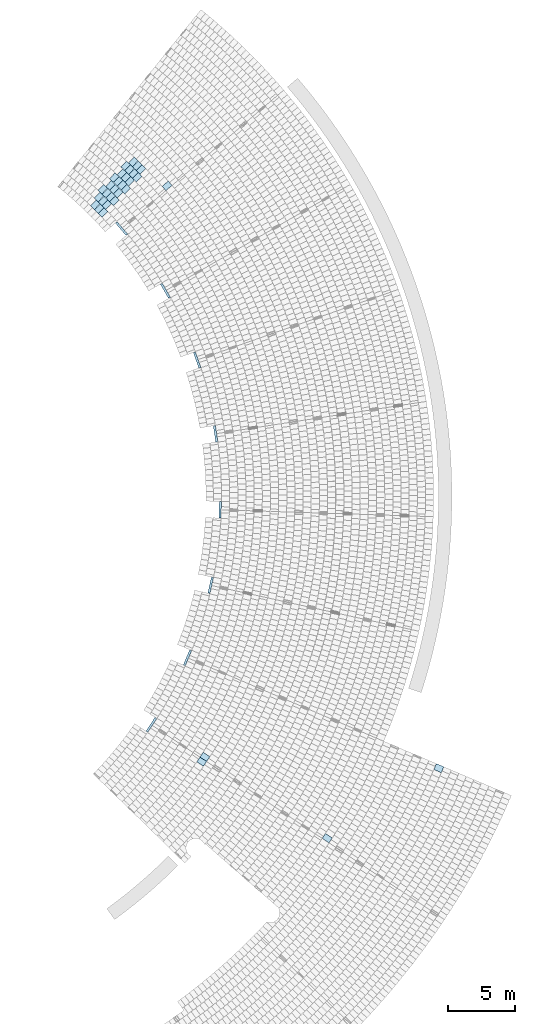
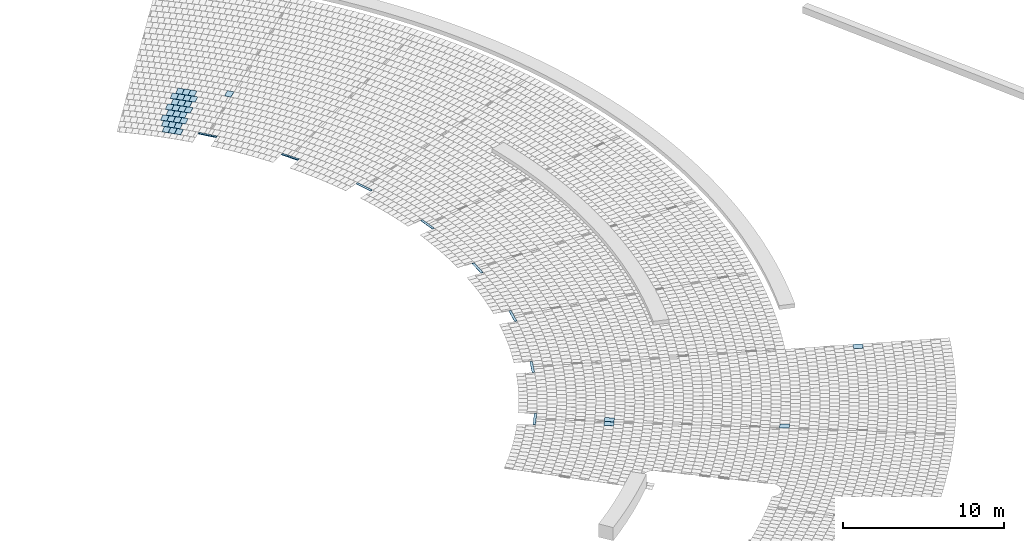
# One storey, part 12 of 438: 40 slabs.
"""IFC2X3 building model written with IfcOpenShell, lengths in millimetres."""

from ifc_helpers import new_model, entity, si_unit, converted_unit, derived_unit, direction, frame, frame_2d, origin, place, context, subcontext, project, spatial, polyline, rectangle, outline, extrude, material, layer, layer_set, layer_usage, type_object, element, save


model = new_model("IFC2X3")

# Units and contexts
model_context = context("Model", 3, precision=0.01, world=origin(), true_north=direction((6.123031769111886e-17, 1.0)))
body_context = subcontext(model_context, "Body", "Model", "MODEL_VIEW")
ifc_project = project(units=[si_unit("LENGTHUNIT", "METRE", prefix="MILLI"), si_unit("AREAUNIT", "SQUARE_METRE"), si_unit("VOLUMEUNIT", "CUBIC_METRE"), converted_unit("PLANEANGLEUNIT", "DEGREE", entity("IfcRatioMeasure", 0.017453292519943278), si_unit("PLANEANGLEUNIT", "RADIAN"), dimensions=[0, 0, 0, 0, 0, 0, 0]), si_unit("MASSUNIT", "GRAM", prefix="KILO"), derived_unit("MASSDENSITYUNIT", [(si_unit("MASSUNIT", "GRAM", prefix="KILO"), 1), (si_unit("LENGTHUNIT", "METRE"), -3)]), derived_unit("MOMENTOFINERTIAUNIT", [(si_unit("LENGTHUNIT", "METRE"), 4)]), si_unit("TIMEUNIT", "SECOND"), si_unit("FREQUENCYUNIT", "HERTZ"), si_unit("THERMODYNAMICTEMPERATUREUNIT", "DEGREE_CELSIUS"), derived_unit("THERMALTRANSMITTANCEUNIT", [(si_unit("MASSUNIT", "GRAM", prefix="KILO"), 1), (si_unit("THERMODYNAMICTEMPERATUREUNIT", "KELVIN"), -1), (si_unit("TIMEUNIT", "SECOND"), -3)]), derived_unit("THERMALCONDUCTANCEUNIT", [(si_unit("MASSUNIT", "GRAM", prefix="KILO"), 1), (si_unit("LENGTHUNIT", "METRE"), 1), (si_unit("THERMODYNAMICTEMPERATUREUNIT", "KELVIN"), -1), (si_unit("TIMEUNIT", "SECOND"), -3)]), derived_unit("VOLUMETRICFLOWRATEUNIT", [(si_unit("LENGTHUNIT", "METRE"), 3), (si_unit("TIMEUNIT", "SECOND"), -1)]), derived_unit("MASSFLOWRATEUNIT", [(si_unit("MASSUNIT", "GRAM", prefix="KILO"), 1), (si_unit("TIMEUNIT", "SECOND"), -1)]), derived_unit("ROTATIONALFREQUENCYUNIT", [(si_unit("TIMEUNIT", "SECOND"), -1)]), si_unit("ELECTRICCURRENTUNIT", "AMPERE"), si_unit("ELECTRICVOLTAGEUNIT", "VOLT"), si_unit("POWERUNIT", "WATT"), converted_unit("FORCEUNIT", "KIP", entity("IfcRatioMeasure", 2.088543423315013e-05), si_unit("FORCEUNIT", "NEWTON"), dimensions=[1, 1, -2, 0, 0, 0, 0]), si_unit("ILLUMINANCEUNIT", "LUX"), si_unit("LUMINOUSFLUXUNIT", "LUMEN"), si_unit("LUMINOUSINTENSITYUNIT", "CANDELA"), derived_unit("USERDEFINED", [(si_unit("MASSUNIT", "GRAM", prefix="KILO"), -1), (si_unit("LENGTHUNIT", "METRE"), -2), (si_unit("TIMEUNIT", "SECOND"), 3), (si_unit("LUMINOUSFLUXUNIT", "LUMEN"), 1)]), derived_unit("USERDEFINED", [(si_unit("MASSUNIT", "GRAM", prefix="KILO"), 1), (si_unit("LENGTHUNIT", "METRE"), 3), (si_unit("TIMEUNIT", "SECOND"), -3), (si_unit("ELECTRICCURRENTUNIT", "AMPERE"), -2)]), derived_unit("USERDEFINED", [(si_unit("LENGTHUNIT", "METRE"), 2), (si_unit("TIMEUNIT", "SECOND"), -2)]), derived_unit("SOUNDPOWERUNIT", [(si_unit("MASSUNIT", "GRAM", prefix="KILO"), 1), (si_unit("LENGTHUNIT", "METRE"), 2), (si_unit("TIMEUNIT", "SECOND"), -3)]), derived_unit("SOUNDPRESSUREUNIT", [(si_unit("MASSUNIT", "GRAM", prefix="KILO"), 1), (si_unit("LENGTHUNIT", "METRE"), -1), (si_unit("TIMEUNIT", "SECOND"), -2)]), derived_unit("LINEARVELOCITYUNIT", [(si_unit("LENGTHUNIT", "METRE"), 1), (si_unit("TIMEUNIT", "SECOND"), -1)]), si_unit("PRESSUREUNIT", "PASCAL"), derived_unit("USERDEFINED", [(si_unit("LENGTHUNIT", "METRE"), -2), (si_unit("MASSUNIT", "GRAM", prefix="KILO"), 1), (si_unit("TIMEUNIT", "SECOND"), -2)]), derived_unit("LINEARFORCEUNIT", [(si_unit("MASSUNIT", "GRAM", prefix="KILO"), 1), (si_unit("LENGTHUNIT", "METRE"), 1), (si_unit("TIMEUNIT", "SECOND"), -2), (si_unit("LENGTHUNIT", "METRE"), -1)]), derived_unit("PLANARFORCEUNIT", [(si_unit("MASSUNIT", "GRAM", prefix="KILO"), 1), (si_unit("LENGTHUNIT", "METRE"), 1), (si_unit("TIMEUNIT", "SECOND"), -2), (si_unit("LENGTHUNIT", "METRE"), -2)]), derived_unit("SPECIFICHEATCAPACITYUNIT", [(si_unit("LENGTHUNIT", "METRE"), 2), (si_unit("TIMEUNIT", "SECOND"), -2), (si_unit("THERMODYNAMICTEMPERATUREUNIT", "KELVIN"), -1)]), derived_unit("VAPORPERMEABILITYUNIT", [(si_unit("TIMEUNIT", "SECOND"), 1), (si_unit("LENGTHUNIT", "METRE"), -1)]), derived_unit("DYNAMICVISCOSITYUNIT", [(si_unit("MASSUNIT", "GRAM", prefix="KILO"), 1), (si_unit("LENGTHUNIT", "METRE"), -1), (si_unit("TIMEUNIT", "SECOND"), -1)]), derived_unit("THERMALEXPANSIONCOEFFICIENTUNIT", [(si_unit("THERMODYNAMICTEMPERATUREUNIT", "KELVIN"), -1)])], contexts=[model_context])

# Site, building, storey
site_placement = place(None, frame((0.0, 0.0, 0.0), z_axis=(0.0, 0.0, 1.0), x_axis=(0.8191520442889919, 0.5735764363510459, 0.0)))
site = spatial("IfcSite", under=ifc_project, at=site_placement, Name="Default", CompositionType="ELEMENT")
building_placement = place(site_placement, origin())
building = spatial("IfcBuilding", under=site, at=building_placement, CompositionType="ELEMENT")
storey_placement = place(building_placement, origin())
storey = spatial("IfcBuildingStorey", under=building, at=storey_placement, Name="PLAN", CompositionType="ELEMENT", Elevation=0.0)

# Slabs
ifc_material = material(Name="Paint-01")
ifc_layer = layer(ifc_material, 20.00000000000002)
ifc_layer_set = layer_set([ifc_layer], Name="Floor:Slab-179:1000")
ifc_layer_usage = layer_usage(ifc_layer_set, "AXIS3", "POSITIVE", 0.0)
slab_type = type_object("IfcSlabType", Name="Floor:Slab-179:1000", PredefinedType="FLOOR", material=ifc_layer_set)
slab_1_placement = place(storey_placement, origin())
element("IfcSlab", 1, at=slab_1_placement, inside=storey, type_object=slab_type, material=ifc_layer_usage, Name="Floor:Slab-179:1000", ObjectType="Floor:Slab-179:1000", PredefinedType="FLOOR", context=body_context, shape_type="SweptSolid", body=[
    extrude(outline(polyline([(-299.9999975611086, -212.6252060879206), (300.0, -212.62520608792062), (299.9999975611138, 212.62520608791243), (-300.0, 212.62520608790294), (-299.9999975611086, -212.6252060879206)])), frame((-5300.360178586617, -64360.26946754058, 520.0), z_axis=(0.0, 0.0, -1.0), x_axis=(0.9947582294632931, 0.10225490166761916, 0.0)), (0.0, 0.0, 1.0), 20.000000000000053),
])
slab_2_placement = place(storey_placement, origin())
element("IfcSlab", 2, at=slab_2_placement, inside=storey, type_object=slab_type, material=ifc_layer_usage, Name="Floor:Slab-179:1000", ObjectType="Floor:Slab-179:1000", PredefinedType="FLOOR", context=body_context, shape_type="SweptSolid", body=[
    extrude(rectangle(XDim=160.00000000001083, YDim=1199.9999999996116, at=frame_2d((3.90087961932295e-12, 4.718003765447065e-12), x_axis=(1.0, 0.0))), frame((-9882.862790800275, -65017.006092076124, 520.0), z_axis=(0.0, 0.0, -1.0), x_axis=(0.9953973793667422, 0.09583348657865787, 0.0)), (0.0, 0.0, 1.0), 20.000000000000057),
])
slab_3_placement = place(storey_placement, origin())
element("IfcSlab", 3, at=slab_3_placement, inside=storey, type_object=slab_type, material=ifc_layer_usage, Name="Floor:Slab-179:1000", ObjectType="Floor:Slab-179:1000", PredefinedType="FLOOR", context=body_context, shape_type="SweptSolid", body=[
    extrude(rectangle(XDim=160.00000000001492, YDim=1199.999999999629, at=frame_2d((4.426681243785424e-12, 7.673861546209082e-12), x_axis=(1.0, 0.0))), frame((-10879.707108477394, -76210.82822734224, 520.0), z_axis=(0.0, 0.0, -1.0), x_axis=(0.9627994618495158, -0.27021694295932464, 0.0)), (0.0, 0.0, 1.0), 19.999999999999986),
])
slab_4_placement = place(storey_placement, origin())
element("IfcSlab", 4, at=slab_4_placement, inside=storey, type_object=slab_type, material=ifc_layer_usage, Name="Floor:Slab-179:1000", ObjectType="Floor:Slab-179:1000", PredefinedType="FLOOR", context=body_context, shape_type="SweptSolid", body=[
    extrude(rectangle(XDim=160.00000000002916, YDim=1199.9999999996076, at=frame_2d((-4.959588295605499e-12, 2.177102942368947e-11), x_axis=(1.0, 0.0))), frame((-12899.385331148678, -81480.15915321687, 520.0), z_axis=(0.0, 0.0, -1.0), x_axis=(0.8967537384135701, -0.4425299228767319, 0.0)), (0.0, 0.0, 1.0), 19.99999999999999),
])
slab_5_placement = place(storey_placement, origin())
element("IfcSlab", 5, at=slab_5_placement, inside=storey, type_object=slab_type, material=ifc_layer_usage, Name="Floor:Slab-179:1000", ObjectType="Floor:Slab-179:1000", PredefinedType="FLOOR", context=body_context, shape_type="SweptSolid", body=[
    extrude(rectangle(XDim=160.00000000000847, YDim=1199.9999999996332, at=frame_2d((-6.0538241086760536e-12, 4.547473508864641e-12), x_axis=(1.0, 0.0))), frame((-15852.911710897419, -86288.6548071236, 520.0), z_axis=(0.0, 0.0, -1.0), x_axis=(0.8001701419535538, -0.5997730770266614, 0.0)), (0.0, 0.0, 1.0), 20.000000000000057),
])
slab_6_placement = place(storey_placement, origin())
element("IfcSlab", 6, at=slab_6_placement, inside=storey, type_object=slab_type, material=ifc_layer_usage, Name="Floor:Slab-179:1000", ObjectType="Floor:Slab-179:1000", PredefinedType="FLOOR", context=body_context, shape_type="SweptSolid", body=[
    extrude(rectangle(XDim=159.99999999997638, YDim=1199.9999999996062, at=frame_2d((7.631228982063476e-12, 1.7337242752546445e-11), x_axis=(1.0, 0.0))), frame((-19639.707449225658, -90472.56763672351, 520.0), z_axis=(0.0, 0.0, -1.0), x_axis=(0.6763377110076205, -0.7365916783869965, 0.0)), (0.0, 0.0, 1.0), 20.000000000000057),
])
slab_7_placement = place(storey_placement, origin())
element("IfcSlab", 7, at=slab_7_placement, inside=storey, type_object=slab_type, material=ifc_layer_usage, Name="Floor:Slab-179:1000", ObjectType="Floor:Slab-179:1000", PredefinedType="FLOOR", context=body_context, shape_type="SweptSolid", body=[
    extrude(rectangle(XDim=160.00000000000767, YDim=1199.999999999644, at=frame_2d((-6.210143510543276e-12, -6.366462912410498e-12), x_axis=(1.0, 0.0))), frame((-24130.81775902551, -93889.41950865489, 520.0), z_axis=(0.0, 0.0, -1.0), x_axis=(0.5294734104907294, -0.848326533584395, 0.0)), (0.0, 0.0, 1.0), 19.99999999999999),
])
slab_8_placement = place(storey_placement, origin())
element("IfcSlab", 8, at=slab_8_placement, inside=storey, type_object=slab_type, material=ifc_layer_usage, Name="Floor:Slab-179:1000", ObjectType="Floor:Slab-179:1000", PredefinedType="FLOOR", context=body_context, shape_type="SweptSolid", body=[
    extrude(rectangle(XDim=160.00000000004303, YDim=1199.9999999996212, at=frame_2d((-7.275957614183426e-12, -5.172751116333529e-12), x_axis=(1.0, 0.0))), frame((-29173.303265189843, -96422.85363048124, 520.0), z_axis=(0.0, 0.0, -1.0), x_axis=(0.3645785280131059, -0.9311726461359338, 0.0)), (0.0, 0.0, 1.0), 20.000000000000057),
])
slab_9_placement = place(storey_placement, origin())
element("IfcSlab", 9, at=slab_9_placement, inside=storey, type_object=slab_type, material=ifc_layer_usage, Name="Floor:Slab-179:1000", ObjectType="Floor:Slab-179:1000", PredefinedType="FLOOR", context=body_context, shape_type="SweptSolid", body=[
    extrude(rectangle(XDim=160.00000000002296, YDim=1199.9999999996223, at=frame_2d((-1.1084466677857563e-11, 9.72022462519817e-12), x_axis=(1.0, 0.0))), frame((-9862.654762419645, -70660.10277431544, 520.0), z_axis=(0.0, 0.0, -1.0), x_axis=(0.9960582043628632, -0.08870204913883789, 0.0)), (0.0, 0.0, 1.0), 19.99999999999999),
])
slab_10_placement = place(storey_placement, origin())
element("IfcSlab", 10, at=slab_10_placement, inside=storey, type_object=slab_type, material=ifc_layer_usage, Name="Floor:Slab-179:1000", ObjectType="Floor:Slab-179:1000", PredefinedType="FLOOR", context=body_context, shape_type="SweptSolid", body=[
    extrude(outline(polyline([(-300.0, -212.6251656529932), (299.99999756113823, -212.62516565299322), (300.0, 212.62516565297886), (-299.9999975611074, 212.62516565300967), (-300.0, -212.6251656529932)])), frame((-27687.154416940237, -100807.1431704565, 520.0), z_axis=(0.0, 0.0, -1.0), x_axis=(0.35856197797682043, -0.9335059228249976, 0.0)), (0.0, 0.0, 1.0), 20.000000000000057),
])
slab_11_placement = place(storey_placement, origin())
element("IfcSlab", 11, at=slab_11_placement, inside=storey, type_object=slab_type, material=ifc_layer_usage, Name="Floor:Slab-179:1000", ObjectType="Floor:Slab-179:1000", PredefinedType="FLOOR", context=body_context, shape_type="SweptSolid", body=[
    extrude(outline(polyline([(-299.99999756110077, -212.62520608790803), (300.0, -212.62520608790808), (299.9999975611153, 212.62520608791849), (-300.0, 212.62520608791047), (-299.99999756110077, -212.62520608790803)])), frame((-27287.575772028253, -100650.69764445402, 520.0), z_axis=(0.0, 0.0, -1.0), x_axis=(0.3705798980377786, -0.9288005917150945, 0.0)), (0.0, 0.0, 1.0), 20.000000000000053),
])
slab_12_placement = place(storey_placement, origin())
element("IfcSlab", 12, at=slab_12_placement, inside=storey, type_object=slab_type, material=ifc_layer_usage, Name="Floor:Slab-179:1000", ObjectType="Floor:Slab-179:1000", PredefinedType="FLOOR", context=body_context, shape_type="SweptSolid", body=[
    extrude(outline(polyline([(-299.9999975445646, -215.7377244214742), (300.0, -215.73772442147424), (299.99999754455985, 215.7377244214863), (-300.0, 215.73772442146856), (-299.9999975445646, -215.7377244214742)])), frame((-23314.75457950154, -110790.31783650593, 520.0), z_axis=(0.0, 0.0, -1.0), x_axis=(0.3692805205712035, -0.9293179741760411, 0.0)), (0.0, 0.0, 1.0), 20.000000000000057),
])
slab_13_placement = place(storey_placement, origin())
element("IfcSlab", 13, at=slab_13_placement, inside=storey, type_object=slab_type, material=ifc_layer_usage, Name="Floor:Slab-179:1000", ObjectType="Floor:Slab-179:1000", PredefinedType="FLOOR", context=body_context, shape_type="SweptSolid", body=[
    extrude(outline(polyline([(-299.9999976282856, -200.00000294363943), (300.0, -200.00000294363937), (299.9999976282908, 200.00000294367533), (-300.0, 200.00000294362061), (-299.9999976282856, -200.00000294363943)])), frame((-6754.326394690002, -62575.10710725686, 520.0), z_axis=(0.0, 0.0, -1.0), x_axis=(0.987433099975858, 0.15803756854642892, 0.0)), (0.0, 0.0, 1.0), 19.999999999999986),
])
slab_14_placement = place(storey_placement, origin())
element("IfcSlab", 14, at=slab_14_placement, inside=storey, type_object=slab_type, material=ifc_layer_usage, Name="Floor:Slab-179:1000", ObjectType="Floor:Slab-179:1000", PredefinedType="FLOOR", context=body_context, shape_type="SweptSolid", body=[
    extrude(outline(polyline([(-299.9999976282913, -200.00000294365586), (300.0, -200.00000294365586), (299.99999762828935, 200.00000294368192), (-300.0, 200.00000294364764), (-299.9999976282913, -200.00000294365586)])), frame((-10321.70629349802, -63256.24852510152, 520.0), z_axis=(0.0, 0.0, -1.0), x_axis=(0.9879930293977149, 0.15449845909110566, 0.0)), (0.0, 0.0, 1.0), 19.99999999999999),
])
slab_15_placement = place(storey_placement, origin())
element("IfcSlab", 15, at=slab_15_placement, inside=storey, type_object=slab_type, material=ifc_layer_usage, Name="Floor:Slab-179:1000", ObjectType="Floor:Slab-179:1000", PredefinedType="FLOOR", context=body_context, shape_type="SweptSolid", body=[
    extrude(outline(polyline([(-299.99999762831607, -200.00000294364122), (300.0, -200.00000294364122), (299.99999762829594, 200.0000029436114), (-300.0, 200.00000294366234), (-299.99999762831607, -200.00000294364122)])), frame((-9197.99173206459, -62630.67794176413, 520.0), z_axis=(0.0, 0.0, -1.0), x_axis=(0.9857204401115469, 0.16839006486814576, 0.0)), (0.0, 0.0, 1.0), 20.000000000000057),
])
slab_16_placement = place(storey_placement, origin())
element("IfcSlab", 16, at=slab_16_placement, inside=storey, type_object=slab_type, material=ifc_layer_usage, Name="Floor:Slab-179:1000", ObjectType="Floor:Slab-179:1000", PredefinedType="FLOOR", context=body_context, shape_type="SweptSolid", body=[
    extrude(outline(polyline([(-299.9999976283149, -200.00000294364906), (300.0, -200.00000294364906), (299.99999762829, 200.00000294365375), (-300.0, 200.00000294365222), (-299.9999976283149, -200.00000294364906)])), frame((-9759.099015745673, -62943.29842602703, 520.0), z_axis=(0.0, 0.0, -1.0), x_axis=(0.986858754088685, 0.1615852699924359, 0.0)), (0.0, 0.0, 1.0), 20.000000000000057),
])
slab_17_placement = place(storey_placement, origin())
element("IfcSlab", 17, at=slab_17_placement, inside=storey, type_object=slab_type, material=ifc_layer_usage, Name="Floor:Slab-179:1000", ObjectType="Floor:Slab-179:1000", PredefinedType="FLOOR", context=body_context, shape_type="SweptSolid", body=[
    extrude(outline(polyline([(-299.99999762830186, -200.00000294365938), (300.0, -200.00000294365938), (299.99999762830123, 200.00000294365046), (-300.0, 200.00000294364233), (-299.99999762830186, -200.00000294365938)])), frame((-9826.961772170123, -62545.136251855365, 520.0), z_axis=(0.0, 0.0, -1.0), x_axis=(0.9846675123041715, 0.17444165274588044, 0.0)), (0.0, 0.0, 1.0), 20.000000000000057),
])
slab_18_placement = place(storey_placement, origin())
element("IfcSlab", 18, at=slab_18_placement, inside=storey, type_object=slab_type, material=ifc_layer_usage, Name="Floor:Slab-179:1000", ObjectType="Floor:Slab-179:1000", PredefinedType="FLOOR", context=body_context, shape_type="SweptSolid", body=[
    extrude(outline(polyline([(-200.0000013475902, -299.9999986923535), (200.00000453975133, -299.9999986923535), (200.00000134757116, 299.99999869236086), (-200.00000453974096, 299.99999869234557), (-200.0000013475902, -299.9999986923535)])), frame((-6334.230480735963, -61468.10881863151, 520.0), z_axis=(0.0, 0.0, -1.0), x_axis=(0.18726836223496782, -0.9823087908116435, 0.0)), (0.0, 0.0, 1.0), 20.000000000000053),
])
slab_19_placement = place(storey_placement, origin())
element("IfcSlab", 19, at=slab_19_placement, inside=storey, type_object=slab_type, material=ifc_layer_usage, Name="Floor:Slab-179:1000", ObjectType="Floor:Slab-179:1000", PredefinedType="FLOOR", context=body_context, shape_type="SweptSolid", body=[
    extrude(outline(polyline([(-200.00000134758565, -299.9999986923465), (200.00000453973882, -299.9999986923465), (200.00000134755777, 299.99999869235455), (-200.00000453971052, 299.9999986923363), (-200.00000134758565, -299.9999986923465)])), frame((-10457.141603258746, -62459.73388317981, 520.0), z_axis=(0.0, 0.0, -1.0), x_axis=(0.18072979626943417, -0.9835327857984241, 0.0)), (0.0, 0.0, 1.0), 20.000000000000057),
])
slab_20_placement = place(storey_placement, origin())
element("IfcSlab", 20, at=slab_20_placement, inside=storey, type_object=slab_type, material=ifc_layer_usage, Name="Floor:Slab-179:1000", ObjectType="Floor:Slab-179:1000", PredefinedType="FLOOR", context=body_context, shape_type="SweptSolid", body=[
    extrude(outline(polyline([(-200.00000134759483, -299.99999869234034), (200.0000045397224, -299.99999869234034), (200.0000013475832, 299.99999869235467), (-200.00000453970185, 299.9999986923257), (-200.00000134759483, -299.99999869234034)])), frame((-9344.160922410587, -61836.37428086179, 520.0), z_axis=(0.0, 0.0, -1.0), x_axis=(0.19354615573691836, -0.9810911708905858, 0.0)), (0.0, 0.0, 1.0), 20.000000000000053),
])
slab_21_placement = place(storey_placement, origin())
element("IfcSlab", 21, at=slab_21_placement, inside=storey, type_object=slab_type, material=ifc_layer_usage, Name="Floor:Slab-179:1000", ObjectType="Floor:Slab-179:1000", PredefinedType="FLOOR", context=body_context, shape_type="SweptSolid", body=[
    extrude(outline(polyline([(-299.9999976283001, -200.00000294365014), (300.0, -200.00000294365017), (299.99999762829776, 200.00000294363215), (-300.0, 200.00000294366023), (-299.9999976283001, -200.00000294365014)])), frame((-8638.29659957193, -62318.37802810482, 520.0), z_axis=(0.0, 0.0, -1.0), x_axis=(0.9845810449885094, 0.17492903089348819, 0.0)), (0.0, 0.0, 1.0), 20.000000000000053),
])
slab_22_placement = place(storey_placement, origin())
element("IfcSlab", 22, at=slab_22_placement, inside=storey, type_object=slab_type, material=ifc_layer_usage, Name="Floor:Slab-179:1000", ObjectType="Floor:Slab-179:1000", PredefinedType="FLOOR", context=body_context, shape_type="SweptSolid", body=[
    extrude(outline(polyline([(-299.9999976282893, -200.000002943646), (300.0, -200.00000294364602), (299.9999976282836, 200.0000029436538), (-300.0, 200.0000029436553), (-299.9999976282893, -200.000002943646)])), frame((-8009.223109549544, -62403.83498428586, 520.0), z_axis=(0.0, 0.0, -1.0), x_axis=(0.985599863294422, 0.1690943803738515, 0.0)), (0.0, 0.0, 1.0), 20.000000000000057),
])
slab_23_placement = place(storey_placement, origin())
element("IfcSlab", 23, at=slab_23_placement, inside=storey, type_object=slab_type, material=ifc_layer_usage, Name="Floor:Slab-179:1000", ObjectType="Floor:Slab-179:1000", PredefinedType="FLOOR", context=body_context, shape_type="SweptSolid", body=[
    extrude(outline(polyline([(-299.9999976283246, -200.0000029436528), (300.0, -200.0000029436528), (299.9999976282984, 200.0000029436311), (-300.0, 200.00000294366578), (-299.9999976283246, -200.0000029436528)])), frame((-7943.412843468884, -62802.120927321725, 520.0), z_axis=(0.0, 0.0, -1.0), x_axis=(0.9876071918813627, 0.15694596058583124, 0.0)), (0.0, 0.0, 1.0), 20.000000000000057),
])
slab_24_placement = place(storey_placement, origin())
element("IfcSlab", 24, at=slab_24_placement, inside=storey, type_object=slab_type, material=ifc_layer_usage, Name="Floor:Slab-179:1000", ObjectType="Floor:Slab-179:1000", PredefinedType="FLOOR", context=body_context, shape_type="SweptSolid", body=[
    extrude(outline(polyline([(-299.9999976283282, -200.00000294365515), (300.0, -200.00000294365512), (299.9999976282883, 200.00000294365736), (-300.0, 200.00000294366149), (-299.9999976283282, -200.00000294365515)])), frame((-8570.163184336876, -62716.343965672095, 520.0), z_axis=(0.0, 0.0, -1.0), x_axis=(0.9866983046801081, 0.1625621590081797, 0.0)), (0.0, 0.0, 1.0), 19.999999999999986),
])
slab_25_placement = place(storey_placement, origin())
element("IfcSlab", 25, at=slab_25_placement, inside=storey, type_object=slab_type, material=ifc_layer_usage, Name="Floor:Slab-179:1000", ObjectType="Floor:Slab-179:1000", PredefinedType="FLOOR", context=body_context, shape_type="SweptSolid", body=[
    extrude(outline(polyline([(-299.99999762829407, -200.0000029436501), (300.0, -200.0000029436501), (299.9999976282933, 200.00000294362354), (-300.0, 200.00000294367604), (-299.99999762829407, -200.0000029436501)])), frame((-7449.636730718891, -62091.63173019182, 520.0), z_axis=(0.0, 0.0, -1.0), x_axis=(0.9845006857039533, 0.17538072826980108, 0.0)), (0.0, 0.0, 1.0), 20.000000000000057),
])
slab_26_placement = place(storey_placement, origin())
element("IfcSlab", 26, at=slab_26_placement, inside=storey, type_object=slab_type, material=ifc_layer_usage, Name="Floor:Slab-179:1000", ObjectType="Floor:Slab-179:1000", PredefinedType="FLOOR", context=body_context, shape_type="SweptSolid", body=[
    extrude(outline(polyline([(-299.99999762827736, -200.0000029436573), (300.0, -200.0000029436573), (299.99999762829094, 200.0000029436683), (-300.0, 200.00000294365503), (-299.99999762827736, -200.0000029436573)])), frame((-7381.252680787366, -62489.415597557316, 520.0), z_axis=(0.0, 0.0, -1.0), x_axis=(0.9865487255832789, 0.16346746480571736, 0.0)), (0.0, 0.0, 1.0), 20.000000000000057),
])
slab_27_placement = place(storey_placement, origin())
element("IfcSlab", 27, at=slab_27_placement, inside=storey, type_object=slab_type, material=ifc_layer_usage, Name="Floor:Slab-179:1000", ObjectType="Floor:Slab-179:1000", PredefinedType="FLOOR", context=body_context, shape_type="SweptSolid", body=[
    extrude(outline(polyline([(-200.00000134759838, -299.9999986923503), (200.00000453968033, -299.9999986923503), (200.00000134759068, 299.99999869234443), (-200.00000453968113, 299.99999869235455), (-200.00000134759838, -299.9999986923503)])), frame((-9900.011392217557, -62147.8929691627, 520.0), z_axis=(0.0, 0.0, -1.0), x_axis=(0.1872683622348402, -0.9823087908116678, 0.0)), (0.0, 0.0, 1.0), 20.000000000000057),
])
slab_28_placement = place(storey_placement, origin())
element("IfcSlab", 28, at=slab_28_placement, inside=storey, type_object=slab_type, material=ifc_layer_usage, Name="Floor:Slab-179:1000", ObjectType="Floor:Slab-179:1000", PredefinedType="FLOOR", context=body_context, shape_type="SweptSolid", body=[
    extrude(outline(polyline([(-299.99999762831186, -200.00000294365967), (300.0, -200.00000294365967), (299.9999976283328, 200.00000294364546), (-300.0, 200.00000294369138), (-299.99999762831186, -200.00000294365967)])), frame((-9132.537896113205, -63029.16683440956, 520.0), z_axis=(0.0, 0.0, -1.0), x_axis=(0.9877934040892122, 0.1557696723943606, 0.0)), (0.0, 0.0, 1.0), 20.000000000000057),
])
slab_29_placement = place(storey_placement, origin())
element("IfcSlab", 29, at=slab_29_placement, inside=storey, type_object=slab_type, material=ifc_layer_usage, Name="Floor:Slab-179:1000", ObjectType="Floor:Slab-179:1000", PredefinedType="FLOOR", context=body_context, shape_type="SweptSolid", body=[
    extrude(outline(polyline([(-200.00000134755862, -299.99999869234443), (200.00000453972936, -299.99999869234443), (200.00000134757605, 299.99999869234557), (-200.0000045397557, 299.99999869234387), (-200.00000134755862, -299.99999869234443)])), frame((-7522.8241178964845, -61694.70353547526, 520.0), z_axis=(0.0, 0.0, -1.0), x_axis=(0.18726836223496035, -0.9823087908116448, 0.0)), (0.0, 0.0, 1.0), 20.000000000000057),
])
slab_30_placement = place(storey_placement, origin())
element("IfcSlab", 30, at=slab_30_placement, inside=storey, type_object=slab_type, material=ifc_layer_usage, Name="Floor:Slab-179:1000", ObjectType="Floor:Slab-179:1000", PredefinedType="FLOOR", context=body_context, shape_type="SweptSolid", body=[
    extrude(outline(polyline([(-200.00000134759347, -299.9999986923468), (200.0000045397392, -299.9999986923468), (200.00000134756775, 299.9999986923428), (-200.00000453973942, 299.9999986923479), (-200.00000134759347, -299.9999986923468)])), frame((-8155.5301306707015, -61609.844879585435, 520.0), z_axis=(0.0, 0.0, -1.0), x_axis=(0.1933124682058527, -0.9811372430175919, 0.0)), (0.0, 0.0, 1.0), 20.000000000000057),
])
slab_31_placement = place(storey_placement, origin())
element("IfcSlab", 31, at=slab_31_placement, inside=storey, type_object=slab_type, material=ifc_layer_usage, Name="Floor:Slab-179:1000", ObjectType="Floor:Slab-179:1000", PredefinedType="FLOOR", context=body_context, shape_type="SweptSolid", body=[
    extrude(outline(polyline([(-200.00000134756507, -299.9999986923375), (200.00000453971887, -299.9999986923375), (200.00000134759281, 299.9999986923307), (-200.00000453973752, 299.9999986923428), (-200.00000134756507, -299.9999986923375)])), frame((-8711.417755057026, -61921.29825231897, 520.0), z_axis=(0.0, 0.0, -1.0), x_axis=(0.18726836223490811, -0.9823087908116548, 0.0)), (0.0, 0.0, 1.0), 19.99999999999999),
])
slab_32_placement = place(storey_placement, origin())
element("IfcSlab", 32, at=slab_32_placement, inside=storey, type_object=slab_type, material=ifc_layer_usage, Name="Floor:Slab-179:1000", ObjectType="Floor:Slab-179:1000", PredefinedType="FLOOR", context=body_context, shape_type="SweptSolid", body=[
    extrude(outline(polyline([(-200.00000134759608, -299.9999986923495), (200.00000453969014, -299.9999986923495), (200.00000134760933, 299.9999986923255), (-200.00000453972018, 299.9999986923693), (-200.00000134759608, -299.9999986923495)])), frame((-9268.536587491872, -62233.05874258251, 520.0), z_axis=(0.0, 0.0, -1.0), x_axis=(0.18098291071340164, -0.983486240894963, 0.0)), (0.0, 0.0, 1.0), 20.000000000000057),
])
slab_33_placement = place(storey_placement, origin())
element("IfcSlab", 33, at=slab_33_placement, inside=storey, type_object=slab_type, material=ifc_layer_usage, Name="Floor:Slab-179:1000", ObjectType="Floor:Slab-179:1000", PredefinedType="FLOOR", context=body_context, shape_type="SweptSolid", body=[
    extrude(outline(polyline([(-200.00000134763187, -299.9999986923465), (200.00000453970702, -299.99999869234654), (200.00000134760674, 299.99999869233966), (-200.0000045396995, 299.99999869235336), (-200.00000134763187, -299.9999986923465)])), frame((-8079.932445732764, -62006.389547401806, 520.0), z_axis=(0.0, 0.0, -1.0), x_axis=(0.18121716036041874, -0.9834431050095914, 0.0)), (0.0, 0.0, 1.0), 19.99999999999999),
])
slab_34_placement = place(storey_placement, origin())
element("IfcSlab", 34, at=slab_34_placement, inside=storey, type_object=slab_type, material=ifc_layer_usage, Name="Floor:Slab-179:1000", ObjectType="Floor:Slab-179:1000", PredefinedType="FLOOR", context=body_context, shape_type="SweptSolid", body=[
    extrude(outline(polyline([(-200.00000134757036, -299.9999986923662), (200.00000453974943, -299.9999986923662), (200.00000134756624, 299.9999986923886), (-200.00000453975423, 299.99999869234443), (-200.00000134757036, -299.9999986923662)])), frame((-6891.329061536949, -61779.725768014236, 520.0), z_axis=(0.0, 0.0, -1.0), x_axis=(0.18143457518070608, -0.9834030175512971, 0.0)), (0.0, 0.0, 1.0), 20.000000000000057),
])
slab_35_placement = place(storey_placement, origin())
element("IfcSlab", 35, at=slab_35_placement, inside=storey, type_object=slab_type, material=ifc_layer_usage, Name="Floor:Slab-179:1000", ObjectType="Floor:Slab-179:1000", PredefinedType="FLOOR", context=body_context, shape_type="SweptSolid", body=[
    extrude(outline(polyline([(-299.99999762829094, -200.00000294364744), (300.0, -200.00000294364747), (299.9999976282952, 200.00000294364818), (-300.0, 200.000002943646), (-299.99999762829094, -200.00000294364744)])), frame((-6820.467195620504, -62177.00984240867, 520.0), z_axis=(0.0, 0.0, -1.0), x_axis=(0.9854874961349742, 0.16974803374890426, 0.0)), (0.0, 0.0, 1.0), 20.000000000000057),
])
slab_36_placement = place(storey_placement, origin())
element("IfcSlab", 36, at=slab_36_placement, inside=storey, type_object=slab_type, material=ifc_layer_usage, Name="Floor:Slab-179:1000", ObjectType="Floor:Slab-179:1000", PredefinedType="FLOOR", context=body_context, shape_type="SweptSolid", body=[
    extrude(outline(polyline([(-200.00000134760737, -299.99999869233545), (200.00000453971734, -299.99999869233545), (200.00000134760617, 299.9999986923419), (-200.00000453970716, 299.99999869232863), (-200.00000134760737, -299.99999869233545)])), frame((-6966.902005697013, -61383.31087432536, 520.0), z_axis=(0.0, 0.0, -1.0), x_axis=(0.1930955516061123, -0.9811799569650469, 0.0)), (0.0, 0.0, 1.0), 20.000000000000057),
])
slab_37_placement = place(storey_placement, origin())
element("IfcSlab", 37, at=slab_37_placement, inside=storey, type_object=slab_type, material=ifc_layer_usage, Name="Floor:Slab-179:1000", ObjectType="Floor:Slab-179:1000", PredefinedType="FLOOR", context=body_context, shape_type="SweptSolid", body=[
    extrude(outline(polyline([(-299.99999762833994, -200.00000294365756), (300.0, -200.00000294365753), (299.9999976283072, 200.00000294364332), (-300.0, 200.00000294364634), (-299.99999762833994, -200.00000294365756)])), frame((-6192.364793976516, -62262.51058275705, 520.0), z_axis=(0.0, 0.0, -1.0), x_axis=(0.986408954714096, 0.16430877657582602, 0.0)), (0.0, 0.0, 1.0), 20.000000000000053),
])
slab_38_placement = place(storey_placement, origin())
element("IfcSlab", 38, at=slab_38_placement, inside=storey, type_object=slab_type, material=ifc_layer_usage, Name="Floor:Slab-179:1000", ObjectType="Floor:Slab-179:1000", PredefinedType="FLOOR", context=body_context, shape_type="SweptSolid", body=[
    extrude(outline(polyline([(-299.9999976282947, -200.00000294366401), (300.0, -200.00000294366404), (299.9999976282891, 200.00000294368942), (-300.0, 200.00000294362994), (-299.9999976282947, -200.00000294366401)])), frame((-6260.981596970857, -61864.89609930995, 520.0), z_axis=(0.0, 0.0, -1.0), x_axis=(0.9844258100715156, 0.1758005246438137, 0.0)), (0.0, 0.0, 1.0), 19.99999999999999),
])
slab_39_placement = place(storey_placement, origin())
element("IfcSlab", 39, at=slab_39_placement, inside=storey, type_object=slab_type, material=ifc_layer_usage, Name="Floor:Slab-179:1000", ObjectType="Floor:Slab-179:1000", PredefinedType="FLOOR", context=body_context, shape_type="SweptSolid", body=[
    extrude(outline(polyline([(-299.9999976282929, -200.0000029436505), (300.0, -200.0000029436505), (299.9999976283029, 200.0000029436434), (-300.0, 200.0000029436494), (-299.9999976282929, -200.0000029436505)])), frame((-10386.774639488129, -62857.54073033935, 520.0), z_axis=(0.0, 0.0, -1.0), x_axis=(0.9858501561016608, 0.16762896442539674, 0.0)), (0.0, 0.0, 1.0), 19.99999999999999),
])
slab_40_placement = place(storey_placement, origin())
element("IfcSlab", 40, at=slab_40_placement, inside=storey, type_object=slab_type, material=ifc_layer_usage, Name="Floor:Slab-179:1000", ObjectType="Floor:Slab-179:1000", PredefinedType="FLOOR", context=body_context, shape_type="SweptSolid", body=[
    extrude(outline(polyline([(-299.9999974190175, -239.34434651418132), (300.0, -239.3443465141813), (299.9999974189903, 239.34434651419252), (-300.0, 239.3443465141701), (-299.9999974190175, -239.34434651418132)])), frame((-13558.120091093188, -111284.23412928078, 520.0), z_axis=(0.0, 0.0, -1.0), x_axis=(0.5247963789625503, -0.8512277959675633, 0.0)), (0.0, 0.0, 1.0), 20.000000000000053),
])

save(model, "model.ifc")
